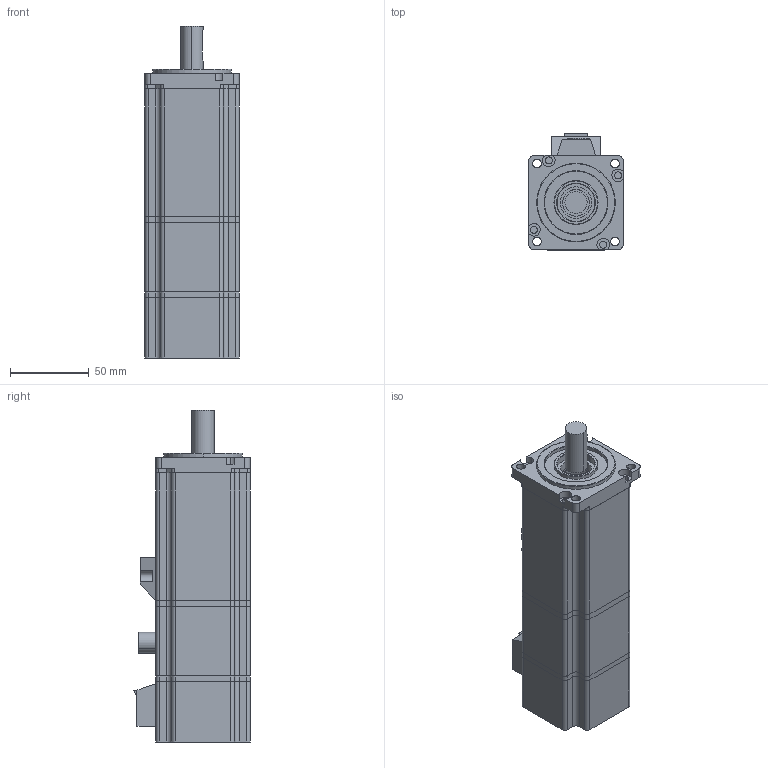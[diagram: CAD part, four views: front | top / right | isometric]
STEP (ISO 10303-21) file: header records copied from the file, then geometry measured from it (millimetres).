
FILE_DESCRIPTION (( 'STEP AP203' ), '1' );
FILE_NAME ('60-01330Z.STEP', '2020-03-08T12:41:04', ( '' ), ( '' ), 'SwSTEP 2.0', 'SolidWorks 2016', '' );
FILE_SCHEMA (( 'CONFIG_CONTROL_DESIGN' ));
Length unit declared in the file: millimetre
Products named in the file (11): 60-01330Z; 60綴裔; 60粣; 60ヶ裔; 60晤鎢ん裔啣; 60惕掅儂褲; 60惕掅綴裔; 60 1.3籟隅赽; 惕掅芛; 萇儂裔啣; 60晤鎢ん
Assembly tree (10 placements, depth 2):
  60-01330Z
    60 1.3籟隅赽
    60ヶ裔
    60綴裔
    60粣
    萇儂裔啣
    60晤鎢ん
    60晤鎢ん裔啣
    60惕掅綴裔
    60惕掅儂褲
    惕掅芛
Bounding box: 60 x 74 x 211 mm (x, y, z)
Volume: 290747.3 mm3; surface area: 109571.2 mm2
Topology: 13 solids, 13 shells, 391 faces, 1010 edges, 668 vertices
Faces by surface type: cylinder 223, plane 156, torus 8, cone 2, bspline 2
Entity records: 13483 total; most frequent: DIRECTION 2270, CARTESIAN_POINT 2148, ORIENTED_EDGE 2020, EDGE_CURVE 1010, AXIS2_PLACEMENT_3D 864, VERTEX_POINT 668, LINE 542, VECTOR 542
